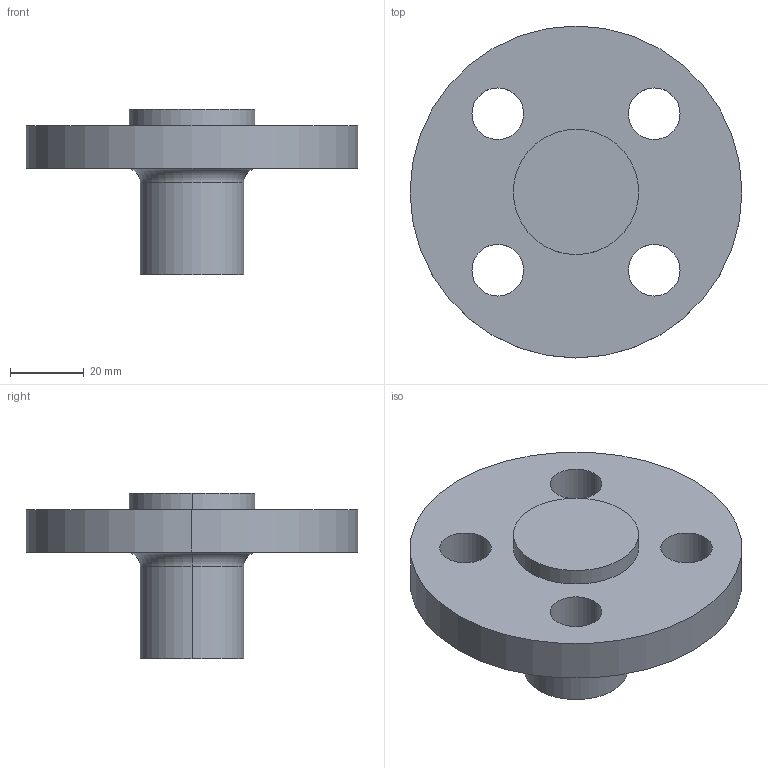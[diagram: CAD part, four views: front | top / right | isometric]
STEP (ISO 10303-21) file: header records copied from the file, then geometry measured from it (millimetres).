
FILE_DESCRIPTION (( 'STEP AP214' ), '1' );
FILE_NAME ('PN40 DN10 Type 21(i) - Type E Face.STEP', '2018-12-29T05:07:56', ( '' ), ( '' ), 'SwSTEP 2.0', 'SolidWorks 2019', '' );
FILE_SCHEMA (( 'AUTOMOTIVE_DESIGN' ));
Length unit declared in the file: millimetre
Products named in the file (1): PN40 DN10 Type 21(i) - Type E Face
Bounding box: 90 x 90 x 45 mm (x, y, z)
Volume: 88342.5 mm3; surface area: 19654.4 mm2
Topology: 1 solids, 1 shells, 20 faces, 46 edges, 30 vertices
Faces by surface type: cylinder 14, plane 4, torus 2
Entity records: 636 total; most frequent: DIRECTION 120, CARTESIAN_POINT 97, ORIENTED_EDGE 92, AXIS2_PLACEMENT_3D 53, EDGE_CURVE 46, CIRCLE 32, VERTEX_POINT 30, EDGE_LOOP 30
